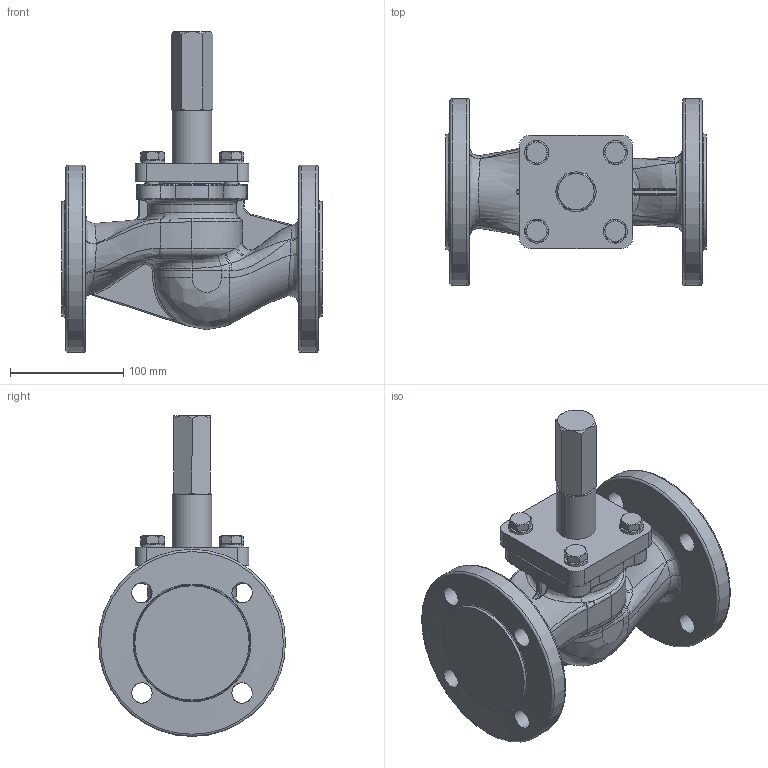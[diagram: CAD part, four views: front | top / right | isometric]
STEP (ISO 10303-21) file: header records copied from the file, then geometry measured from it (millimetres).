
FILE_DESCRIPTION((''),'2;1');
FILE_NAME('G:\CAD-Download\MEA\10-MEA Flansch\DN 50\10-MEA 20N.stp','2011-06-30T09:33:55',('LH'),(''),'Autodesk Inventor 2008','Autodesk Inventor 2008','');
FILE_SCHEMA(('AUTOMOTIVE_DESIGN { 1 0 10303 214 1 1 1 1 }'));
Length unit declared in the file: millimetre
Products named in the file (1): Bauteil3
Bounding box: 230 x 165 x 283 mm (x, y, z)
Volume: 2026026.8 mm3; surface area: 209681.8 mm2
Topology: 1 solids, 1 shells, 377 faces, 897 edges, 536 vertices
Faces by surface type: bspline 162, plane 95, cylinder 66, cone 35, torus 19
Full cylindrical faces by diameter (mm): 12 x4, 16.63 x4, 18 x4, 35 x1, 74 x1, 74.5 x1, 165 x1
Entity records: 26195 total; most frequent: CARTESIAN_POINT 18404, ORIENTED_EDGE 1640, DIRECTION 1242, EDGE_CURVE 820, AXIS2_PLACEMENT_3D 537, VERTEX_POINT 509, EDGE_LOOP 473, STYLED_ITEM 378
